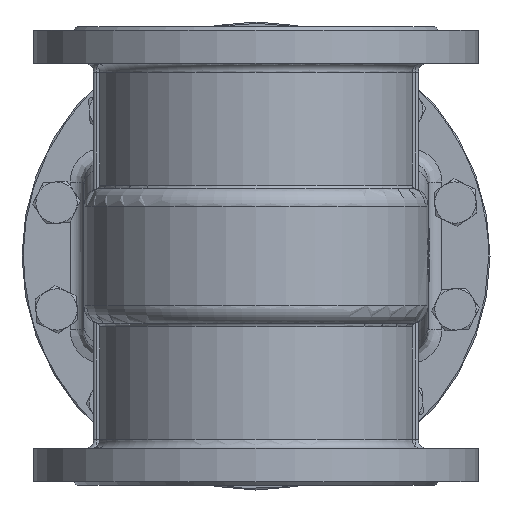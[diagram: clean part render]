
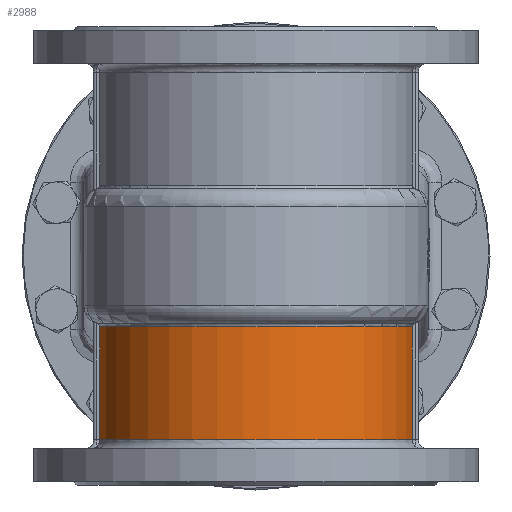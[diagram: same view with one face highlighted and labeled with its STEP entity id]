
A CAD part, front view. The second image highlights one B-rep face of the part: STEP entity #2988.
In plain terms, the highlighted cylindrical face has radius 172.5 mm (diameter 345 mm), a partial arc.
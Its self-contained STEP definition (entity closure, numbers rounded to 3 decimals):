
#2988=ADVANCED_FACE('',(#16383),#16385,.T.);
#16383=FACE_BOUND('',#16384,.T.);
#16384=EDGE_LOOP('',(#28744,#28745,#28746,#28747));
#16385=CYLINDRICAL_SURFACE('',#16386,172.5);
#16386=AXIS2_PLACEMENT_3D('',#16387,#16388,#16389);
#16387=CARTESIAN_POINT('',(0.,0.,-211.5));
#16388=DIRECTION('',(0.,0.,1.));
#16389=DIRECTION('',(1.,0.,0.));
#28744=ORIENTED_EDGE('',*,*,#34955,.F.);
#28745=ORIENTED_EDGE('',*,*,#34776,.T.);
#28746=ORIENTED_EDGE('',*,*,#34772,.F.);
#28747=ORIENTED_EDGE('',*,*,#34769,.F.);
#34769=EDGE_CURVE('',#38748,#38751,#38752,.T.);
#34772=EDGE_CURVE('',#38751,#38755,#38756,.T.);
#34776=EDGE_CURVE('',#38759,#38755,#38762,.T.);
#34955=EDGE_CURVE('',#38759,#38748,#39065,.F.);
#38748=VERTEX_POINT('',#60669);
#38751=VERTEX_POINT('',#60674);
#38752=LINE('',#60675,#60676);
#38755=VERTEX_POINT('',#60760);
#38756=CIRCLE('',#60761,172.5);
#38759=VERTEX_POINT('',#60836);
#38762=LINE('',#60843,#60844);
#39065=CIRCLE('',#63512,172.5);
#60669=CARTESIAN_POINT('',(-170.491,-26.25,-200.));
#60674=CARTESIAN_POINT('',(-170.491,-26.25,-77.238));
#60675=CARTESIAN_POINT('',(-170.491,-26.25,-200.));
#60676=VECTOR('',#60677,1.);
#60677=DIRECTION('',(0.,0.,1.));
#60760=CARTESIAN_POINT('',(170.491,-26.25,-77.238));
#60761=AXIS2_PLACEMENT_3D('',#60762,#60763,#60764);
#60762=CARTESIAN_POINT('',(0.,0.,-77.238));
#60763=DIRECTION('',(0.,0.,1.));
#60764=DIRECTION('',(-0.988,-0.152,0.));
#60836=CARTESIAN_POINT('',(170.491,-26.25,-200.));
#60843=CARTESIAN_POINT('',(170.491,-26.25,-200.));
#60844=VECTOR('',#60845,1.);
#60845=DIRECTION('',(0.,0.,1.));
#63512=AXIS2_PLACEMENT_3D('',#63513,#63514,#63515);
#63513=CARTESIAN_POINT('',(0.,0.,-200.));
#63514=DIRECTION('',(0.,0.,1.));
#63515=DIRECTION('',(-0.988,-0.152,0.));
